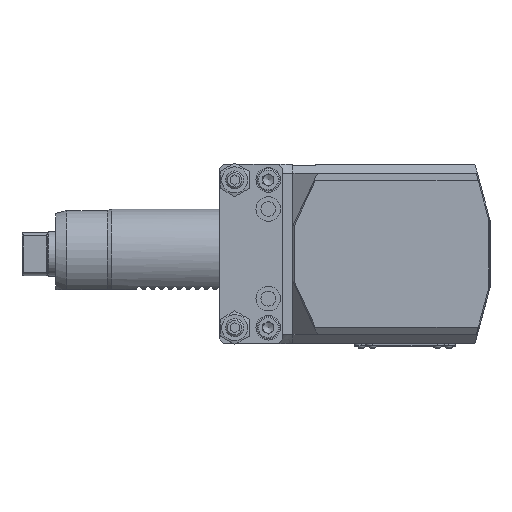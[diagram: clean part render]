
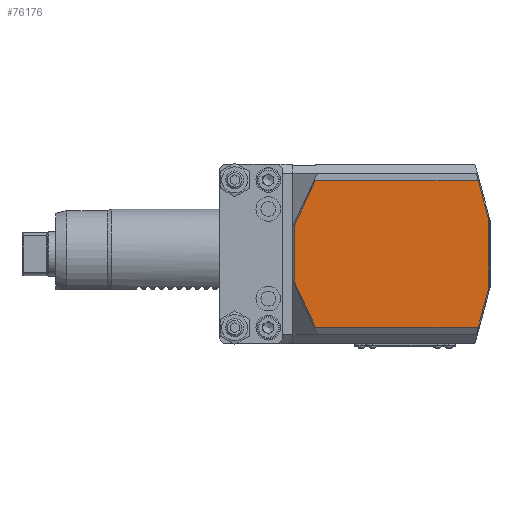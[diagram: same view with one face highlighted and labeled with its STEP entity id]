
A CAD part, top view. The second image highlights one B-rep face of the part: STEP entity #76176.
In plain terms, the highlighted planar face has unit normal (0, 0, 1) as drawn and (-1, 0, 0) by its records, which use the part's own axes.
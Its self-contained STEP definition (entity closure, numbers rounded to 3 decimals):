
#32916=VECTOR('',#55916,1.);
#32927=VECTOR('',#55931,1.);
#32932=VECTOR('',#55938,1.);
#32933=VECTOR('',#55939,1.);
#32934=VECTOR('',#55940,1.);
#32935=VECTOR('',#55941,1.);
#32936=VECTOR('',#55942,1.);
#32937=VECTOR('',#55943,1.);
#34780=LINE('',#69886,#32916);
#34791=LINE('',#69909,#32927);
#34796=LINE('',#69918,#32932);
#34797=LINE('',#69920,#32933);
#34798=LINE('',#69921,#32934);
#34799=LINE('',#69923,#32935);
#34800=LINE('',#69925,#32936);
#34801=LINE('',#69926,#32937);
#36670=PLANE('',#74580);
#41330=ORIENTED_EDGE('',*,*,#47923,.F.);
#41331=ORIENTED_EDGE('',*,*,#47939,.F.);
#41332=ORIENTED_EDGE('',*,*,#47940,.F.);
#41333=ORIENTED_EDGE('',*,*,#47941,.F.);
#41334=ORIENTED_EDGE('',*,*,#47934,.F.);
#41335=ORIENTED_EDGE('',*,*,#47942,.F.);
#41336=ORIENTED_EDGE('',*,*,#47943,.F.);
#41337=ORIENTED_EDGE('',*,*,#47944,.F.);
#45168=VERTEX_POINT('',#69883);
#45169=VERTEX_POINT('',#69885);
#45178=VERTEX_POINT('',#69907);
#45179=VERTEX_POINT('',#69908);
#45182=VERTEX_POINT('',#69917);
#45183=VERTEX_POINT('',#69919);
#45184=VERTEX_POINT('',#69922);
#45185=VERTEX_POINT('',#69924);
#47923=EDGE_CURVE('',#45168,#45169,#34780,.T.);
#47934=EDGE_CURVE('',#45178,#45179,#34791,.T.);
#47939=EDGE_CURVE('',#45182,#45168,#34796,.T.);
#47940=EDGE_CURVE('',#45183,#45182,#34797,.T.);
#47941=EDGE_CURVE('',#45179,#45183,#34798,.T.);
#47942=EDGE_CURVE('',#45184,#45178,#34799,.T.);
#47943=EDGE_CURVE('',#45185,#45184,#34800,.T.);
#47944=EDGE_CURVE('',#45169,#45185,#34801,.T.);
#50082=EDGE_LOOP('',(#41330,#41331,#41332,#41333,#41334,#41335,#41336,#41337));
#51761=FACE_BOUND('',#50082,.T.);
#55916=DIRECTION('',(0.,-72.709,0.));
#55931=DIRECTION('',(0.,72.709,0.));
#55936=DIRECTION('',(-1.,0.,0.));
#55937=DIRECTION('',(0.,1.,0.));
#55938=DIRECTION('',(0.,-9.524,20.425));
#55939=DIRECTION('',(0.,0.,24.599));
#55940=DIRECTION('',(0.,9.524,20.425));
#55941=DIRECTION('',(0.,4.767,-17.79));
#55942=DIRECTION('',(0.,0.,-29.868));
#55943=DIRECTION('',(0.,-4.767,-17.79));
#69883=CARTESIAN_POINT('',(46.381,126.198,32.724));
#69885=CARTESIAN_POINT('',(46.381,53.489,32.724));
#69886=CARTESIAN_POINT('',(46.381,126.198,32.724));
#69907=CARTESIAN_POINT('',(46.381,53.489,-32.724));
#69908=CARTESIAN_POINT('',(46.381,126.198,-32.724));
#69909=CARTESIAN_POINT('',(46.381,53.489,-32.724));
#69916=CARTESIAN_POINT('',(46.381,48.222,0.));
#69917=CARTESIAN_POINT('',(46.381,135.722,12.3));
#69918=CARTESIAN_POINT('',(46.381,135.722,12.3));
#69919=CARTESIAN_POINT('',(46.381,135.722,-12.3));
#69920=CARTESIAN_POINT('',(46.381,135.722,-12.3));
#69921=CARTESIAN_POINT('',(46.381,126.198,-32.724));
#69922=CARTESIAN_POINT('',(46.381,48.722,-14.934));
#69923=CARTESIAN_POINT('',(46.381,48.722,-14.934));
#69924=CARTESIAN_POINT('',(46.381,48.722,14.934));
#69925=CARTESIAN_POINT('',(46.381,48.722,14.934));
#69926=CARTESIAN_POINT('',(46.381,53.489,32.724));
#74580=AXIS2_PLACEMENT_3D('',#69916,#55936,#55937);
#76176=ADVANCED_FACE('',(#51761),#36670,.T.);
